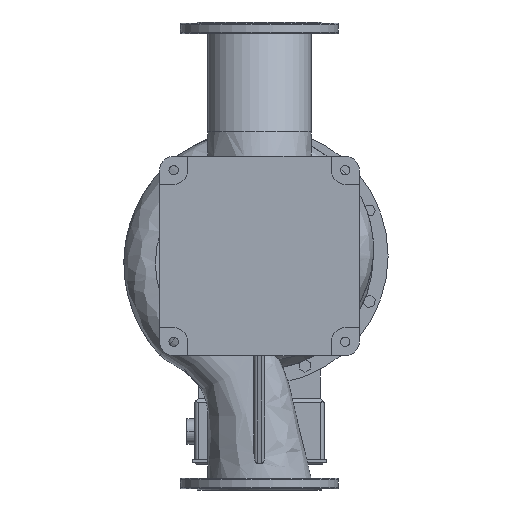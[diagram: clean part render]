
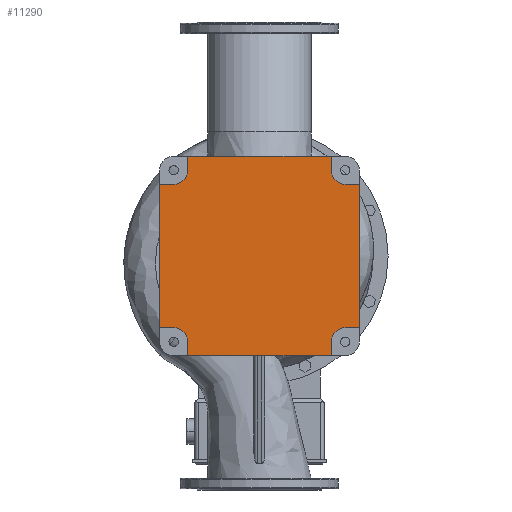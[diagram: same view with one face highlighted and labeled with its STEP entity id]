
A CAD part, front view. The second image highlights one B-rep face of the part: STEP entity #11290.
In plain terms, the highlighted planar face has unit normal (0, -1, 0).
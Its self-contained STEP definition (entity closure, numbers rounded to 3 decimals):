
#119 = DIRECTION ( 'NONE',  ( 0., 0., 1. ) ) ;
#190 = CARTESIAN_POINT ( 'NONE',  ( 220., -300., -220. ) ) ;
#249 = CARTESIAN_POINT ( 'NONE',  ( -220., -300., -184. ) ) ;
#1005 = ORIENTED_EDGE ( 'NONE', *, *, #10609, .T. ) ;
#1254 = VERTEX_POINT ( 'NONE', #7202 ) ;
#1309 = LINE ( 'NONE', #6365, #10162 ) ;
#1455 = EDGE_CURVE ( 'NONE', #23561, #26420, #4365, .T. ) ;
#1614 = VERTEX_POINT ( 'NONE', #27683 ) ;
#2150 = DIRECTION ( 'NONE',  ( 0., 1., 0. ) ) ;
#2252 = EDGE_CURVE ( 'NONE', #24065, #23561, #9266, .T. ) ;
#2605 = EDGE_LOOP ( 'NONE', ( #30802, #18362, #19084, #24584, #35263, #12621, #34020, #23962, #14192, #17313, #21073, #26575, #20552, #13073, #25915, #1005 ) ) ;
#2976 = VERTEX_POINT ( 'NONE', #35205 ) ;
#2996 = DIRECTION ( 'NONE',  ( 0., 0., 1. ) ) ;
#4236 = VERTEX_POINT ( 'NONE', #12099 ) ;
#4365 = CIRCLE ( 'NONE', #15295, 36. ) ;
#4423 = LINE ( 'NONE', #32480, #16289 ) ;
#4652 = CARTESIAN_POINT ( 'NONE',  ( -220., -300., 184. ) ) ;
#4765 = EDGE_CURVE ( 'NONE', #26420, #1254, #7371, .T. ) ;
#5411 = DIRECTION ( 'NONE',  ( 0., 1., 0. ) ) ;
#5524 = DIRECTION ( 'NONE',  ( 0., 1., 0. ) ) ;
#6180 = VECTOR ( 'NONE', #10369, 1000. ) ;
#6321 = CARTESIAN_POINT ( 'NONE',  ( -184., -300., -220. ) ) ;
#6365 = CARTESIAN_POINT ( 'NONE',  ( -256., -300., -184. ) ) ;
#6719 = CARTESIAN_POINT ( 'NONE',  ( 220., -300., 184. ) ) ;
#6767 = DIRECTION ( 'NONE',  ( 0., 0., -1. ) ) ;
#7202 = CARTESIAN_POINT ( 'NONE',  ( -256., -300., 184. ) ) ;
#7371 = LINE ( 'NONE', #4652, #30575 ) ;
#7458 = VERTEX_POINT ( 'NONE', #32935 ) ;
#7527 = DIRECTION ( 'NONE',  ( -1., 0., 0. ) ) ;
#7762 = AXIS2_PLACEMENT_3D ( 'NONE', #10937, #5524, #119 ) ;
#8225 = CARTESIAN_POINT ( 'NONE',  ( -184., -300., -256. ) ) ;
#8542 = DIRECTION ( 'NONE',  ( 1., 0., 0. ) ) ;
#9090 = EDGE_CURVE ( 'NONE', #16168, #4236, #4423, .T. ) ;
#9266 = LINE ( 'NONE', #25828, #35413 ) ;
#9532 = EDGE_CURVE ( 'NONE', #21304, #29634, #26337, .T. ) ;
#9572 = LINE ( 'NONE', #26313, #33559 ) ;
#9769 = CARTESIAN_POINT ( 'NONE',  ( 256., -300., -184. ) ) ;
#9941 = DIRECTION ( 'NONE',  ( 0., 0., 1. ) ) ;
#10162 = VECTOR ( 'NONE', #22734, 1000. ) ;
#10369 = DIRECTION ( 'NONE',  ( -1., 0., 0. ) ) ;
#10609 = EDGE_CURVE ( 'NONE', #2976, #14767, #30499, .T. ) ;
#10937 = CARTESIAN_POINT ( 'NONE',  ( -220., -300., -220. ) ) ;
#11290 = ADVANCED_FACE ( 'NONE', ( #16320 ), #27297, .F. ) ;
#11359 = CARTESIAN_POINT ( 'NONE',  ( 184., -300., 256. ) ) ;
#11476 = CARTESIAN_POINT ( 'NONE',  ( 184., -300., -220. ) ) ;
#11721 = VECTOR ( 'NONE', #13184, 1000. ) ;
#11737 = DIRECTION ( 'NONE',  ( 0., 0., 1. ) ) ;
#12099 = CARTESIAN_POINT ( 'NONE',  ( 256., -300., 184. ) ) ;
#12231 = EDGE_CURVE ( 'NONE', #7458, #35318, #22377, .T. ) ;
#12621 = ORIENTED_EDGE ( 'NONE', *, *, #29402, .T. ) ;
#12645 = DIRECTION ( 'NONE',  ( 1., 0., 0. ) ) ;
#13073 = ORIENTED_EDGE ( 'NONE', *, *, #4765, .T. ) ;
#13075 = CIRCLE ( 'NONE', #15365, 36. ) ;
#13142 = DIRECTION ( 'NONE',  ( 0., 0., 1. ) ) ;
#13184 = DIRECTION ( 'NONE',  ( 0., 0., -1. ) ) ;
#13516 = EDGE_CURVE ( 'NONE', #1254, #2976, #1309, .T. ) ;
#13544 = VECTOR ( 'NONE', #30491, 1000. ) ;
#14192 = ORIENTED_EDGE ( 'NONE', *, *, #16146, .T. ) ;
#14767 = VERTEX_POINT ( 'NONE', #22923 ) ;
#14808 = CARTESIAN_POINT ( 'NONE',  ( -220., -300., -220. ) ) ;
#15295 = AXIS2_PLACEMENT_3D ( 'NONE', #30023, #2150, #13142 ) ;
#15322 = DIRECTION ( 'NONE',  ( 1., 0., 0. ) ) ;
#15365 = AXIS2_PLACEMENT_3D ( 'NONE', #190, #5411, #30801 ) ;
#15573 = VERTEX_POINT ( 'NONE', #33641 ) ;
#16146 = EDGE_CURVE ( 'NONE', #32063, #7458, #23212, .T. ) ;
#16168 = VERTEX_POINT ( 'NONE', #9769 ) ;
#16261 = CARTESIAN_POINT ( 'NONE',  ( 184., -300., 220. ) ) ;
#16289 = VECTOR ( 'NONE', #23662, 1000. ) ;
#16320 = FACE_OUTER_BOUND ( 'NONE', #2605, .T. ) ;
#16691 = LINE ( 'NONE', #11476, #16838 ) ;
#16838 = VECTOR ( 'NONE', #2996, 1000. ) ;
#16963 = LINE ( 'NONE', #27950, #32461 ) ;
#17313 = ORIENTED_EDGE ( 'NONE', *, *, #12231, .T. ) ;
#17690 = DIRECTION ( 'NONE',  ( -1., 0., 0. ) ) ;
#18000 = CARTESIAN_POINT ( 'NONE',  ( 220., -300., -184. ) ) ;
#18174 = CARTESIAN_POINT ( 'NONE',  ( 184., -300., -256. ) ) ;
#18362 = ORIENTED_EDGE ( 'NONE', *, *, #9532, .T. ) ;
#18466 = CARTESIAN_POINT ( 'NONE',  ( 220., -300., 184. ) ) ;
#19084 = ORIENTED_EDGE ( 'NONE', *, *, #23641, .T. ) ;
#19786 = VERTEX_POINT ( 'NONE', #18174 ) ;
#20198 = DIRECTION ( 'NONE',  ( 0., 1., 0. ) ) ;
#20552 = ORIENTED_EDGE ( 'NONE', *, *, #1455, .T. ) ;
#21073 = ORIENTED_EDGE ( 'NONE', *, *, #26725, .T. ) ;
#21304 = VERTEX_POINT ( 'NONE', #6321 ) ;
#22377 = LINE ( 'NONE', #16261, #13544 ) ;
#22734 = DIRECTION ( 'NONE',  ( 0., 0., -1. ) ) ;
#22923 = CARTESIAN_POINT ( 'NONE',  ( -220., -300., -184. ) ) ;
#23134 = EDGE_CURVE ( 'NONE', #19786, #1614, #16691, .T. ) ;
#23212 = CIRCLE ( 'NONE', #27811, 36. ) ;
#23561 = VERTEX_POINT ( 'NONE', #32325 ) ;
#23641 = EDGE_CURVE ( 'NONE', #29634, #19786, #9572, .T. ) ;
#23662 = DIRECTION ( 'NONE',  ( 0., 0., 1. ) ) ;
#23962 = ORIENTED_EDGE ( 'NONE', *, *, #29921, .T. ) ;
#24065 = VERTEX_POINT ( 'NONE', #27842 ) ;
#24168 = CARTESIAN_POINT ( 'NONE',  ( -220., -300., 184. ) ) ;
#24584 = ORIENTED_EDGE ( 'NONE', *, *, #23134, .T. ) ;
#25286 = EDGE_CURVE ( 'NONE', #14767, #21304, #25500, .T. ) ;
#25500 = CIRCLE ( 'NONE', #26643, 36. ) ;
#25551 = LINE ( 'NONE', #18000, #29162 ) ;
#25766 = DIRECTION ( 'NONE',  ( 0., 1., 0. ) ) ;
#25828 = CARTESIAN_POINT ( 'NONE',  ( -184., -300., 220. ) ) ;
#25915 = ORIENTED_EDGE ( 'NONE', *, *, #13516, .T. ) ;
#26313 = CARTESIAN_POINT ( 'NONE',  ( 184., -300., -256. ) ) ;
#26337 = LINE ( 'NONE', #32268, #11721 ) ;
#26420 = VERTEX_POINT ( 'NONE', #24168 ) ;
#26575 = ORIENTED_EDGE ( 'NONE', *, *, #2252, .T. ) ;
#26643 = AXIS2_PLACEMENT_3D ( 'NONE', #14808, #25766, #11737 ) ;
#26725 = EDGE_CURVE ( 'NONE', #35318, #24065, #16963, .T. ) ;
#27297 = PLANE ( 'NONE',  #7762 ) ;
#27683 = CARTESIAN_POINT ( 'NONE',  ( 184., -300., -220. ) ) ;
#27811 = AXIS2_PLACEMENT_3D ( 'NONE', #34436, #20198, #9941 ) ;
#27842 = CARTESIAN_POINT ( 'NONE',  ( -184., -300., 256. ) ) ;
#27950 = CARTESIAN_POINT ( 'NONE',  ( -184., -300., 256. ) ) ;
#29162 = VECTOR ( 'NONE', #15322, 1000. ) ;
#29189 = EDGE_CURVE ( 'NONE', #1614, #15573, #13075, .T. ) ;
#29402 = EDGE_CURVE ( 'NONE', #15573, #16168, #25551, .T. ) ;
#29634 = VERTEX_POINT ( 'NONE', #8225 ) ;
#29921 = EDGE_CURVE ( 'NONE', #4236, #32063, #34669, .T. ) ;
#30023 = CARTESIAN_POINT ( 'NONE',  ( -220., -300., 220. ) ) ;
#30491 = DIRECTION ( 'NONE',  ( 0., 0., 1. ) ) ;
#30499 = LINE ( 'NONE', #249, #33027 ) ;
#30575 = VECTOR ( 'NONE', #7527, 1000. ) ;
#30801 = DIRECTION ( 'NONE',  ( 0., 0., 1. ) ) ;
#30802 = ORIENTED_EDGE ( 'NONE', *, *, #25286, .T. ) ;
#32063 = VERTEX_POINT ( 'NONE', #6719 ) ;
#32268 = CARTESIAN_POINT ( 'NONE',  ( -184., -300., -220. ) ) ;
#32325 = CARTESIAN_POINT ( 'NONE',  ( -184., -300., 220. ) ) ;
#32461 = VECTOR ( 'NONE', #17690, 1000. ) ;
#32480 = CARTESIAN_POINT ( 'NONE',  ( 256., -300., 184. ) ) ;
#32935 = CARTESIAN_POINT ( 'NONE',  ( 184., -300., 220. ) ) ;
#33027 = VECTOR ( 'NONE', #8542, 1000. ) ;
#33559 = VECTOR ( 'NONE', #12645, 1000. ) ;
#33641 = CARTESIAN_POINT ( 'NONE',  ( 220., -300., -184. ) ) ;
#34020 = ORIENTED_EDGE ( 'NONE', *, *, #9090, .T. ) ;
#34436 = CARTESIAN_POINT ( 'NONE',  ( 220., -300., 220. ) ) ;
#34669 = LINE ( 'NONE', #18466, #6180 ) ;
#35205 = CARTESIAN_POINT ( 'NONE',  ( -256., -300., -184. ) ) ;
#35263 = ORIENTED_EDGE ( 'NONE', *, *, #29189, .T. ) ;
#35318 = VERTEX_POINT ( 'NONE', #11359 ) ;
#35413 = VECTOR ( 'NONE', #6767, 1000. ) ;
